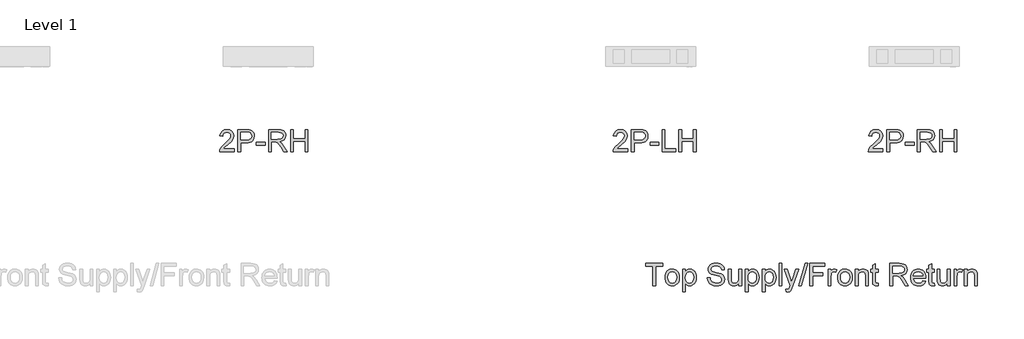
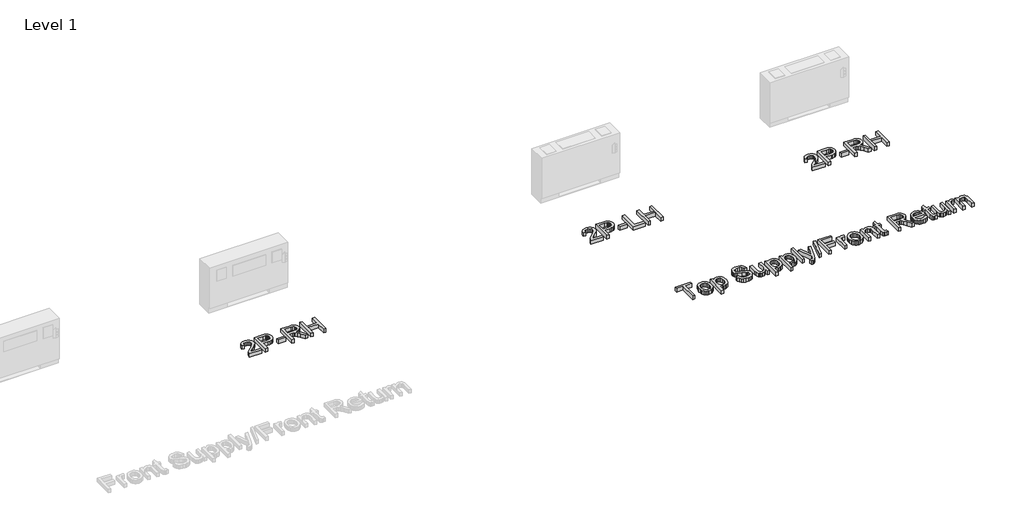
# One storey, part 2 of 2: 4 proxies.
"""IFC4 building model written with IfcOpenShell, lengths in millimetres."""

import ifcopenshell
import ifcopenshell.guid

model = None  # the IFC model being written
_history = None  # IfcOwnerHistory: only IFC2X3 demands one
_inside = {}  # id of a spatial element -> (the spatial element, [elements in it])
_under = {}  # id of a project, library or spatial element -> (it, [spatial elements below it])
_declared = {}  # id of a project -> (the project, [libraries it declares])
_typed = {}  # id of a type object -> (the type object, [elements of that type])
_made_of = {}  # id of a material, layer set ... -> (it, [elements and type objects made of it])


def new_model(schema):
    """Start an empty IFC model of exactly this schema.

    Asked for "IFC4X3", IfcOpenShell would pick the latest addendum, in which some entities
    have other attributes; the version numbers below select the first issue.
    IFC2X3 requires an IfcOwnerHistory on every rooted entity: one is made here for all.
    """
    global model, _history
    if schema == "IFC4X3":
        model = ifcopenshell.file(schema_version=(4, 3, 0, 0))
    else:
        model = ifcopenshell.file(schema=schema)
    _inside.clear()
    _under.clear()
    _declared.clear()
    _typed.clear()
    _made_of.clear()
    _history = None
    if model.schema == "IFC2X3":
        org = make("IfcOrganization", Name="unknown")
        user = make(
            "IfcPersonAndOrganization",
            ThePerson=make("IfcPerson", FamilyName="unknown"),
            TheOrganization=org,
        )
        app = make(
            "IfcApplication",
            ApplicationDeveloper=org,
            Version="unknown",
            ApplicationFullName="unknown",
            ApplicationIdentifier="unknown",
        )
        _history = make(
            "IfcOwnerHistory",
            OwningUser=user,
            OwningApplication=app,
            ChangeAction="ADDED",
            CreationDate=0,
        )
    return model


def make(cls, **values):
    """One entity of the class cls with the attributes given. An attribute that is None is left unset."""
    return model.create_entity(
        cls, **{name: value for name, value in values.items() if value is not None}
    )


def rooted(cls, **values):
    """An entity with a GlobalId (a new one), such as an element, a storey or a relation."""
    return make(cls, GlobalId=ifcopenshell.guid.new(), OwnerHistory=_history, **values)


def si_unit(unit_type, name, prefix=None):
    """IfcSIUnit, for example si_unit("LENGTHUNIT", "METRE", prefix="MILLI")."""
    return make("IfcSIUnit", UnitType=unit_type, Prefix=prefix, Name=name)


def assignment(units):
    """IfcUnitAssignment: the units of a project."""
    return None if units is None else make("IfcUnitAssignment", Units=units)


def point(xyz):
    """IfcCartesianPoint."""
    return None if xyz is None else make("IfcCartesianPoint", Coordinates=xyz)


def direction(xyz):
    """IfcDirection."""
    return None if xyz is None else make("IfcDirection", DirectionRatios=xyz)


def frame(location, z_axis=None, x_axis=None):
    """IfcAxis2Placement3D, a coordinate frame: its origin and axes. An axis left out is left unset."""
    return make(
        "IfcAxis2Placement3D",
        Location=point(location),
        Axis=direction(z_axis),
        RefDirection=direction(x_axis),
    )


def origin():
    """The frame at (0, 0, 0) with its axes left unset."""
    return frame((0.0, 0.0, 0.0))


def origin_with_axes():
    """The frame at (0, 0, 0) with the z axis (0, 0, 1) and the x axis (1, 0, 0) written out."""
    return frame((0.0, 0.0, 0.0), z_axis=(0.0, 0.0, 1.0), x_axis=(1.0, 0.0, 0.0))


def place(relative_to, where):
    """IfcLocalPlacement: puts the frame where relative to a parent placement (None: the world)."""
    return make(
        "IfcLocalPlacement", PlacementRelTo=relative_to, RelativePlacement=where
    )


def context(
    kind, dimensions, precision=None, world=None, true_north=None, identifier=None
):
    """IfcGeometricRepresentationContext, for example the 3D "Model" context."""
    return make(
        "IfcGeometricRepresentationContext",
        ContextIdentifier=identifier,
        ContextType=kind,
        CoordinateSpaceDimension=dimensions,
        Precision=precision,
        WorldCoordinateSystem=world,
        TrueNorth=true_north,
    )


def project(units=None, contexts=None):
    """IfcProject with its units and contexts."""
    return rooted(
        "IfcProject",
        Name="project",
        RepresentationContexts=contexts,
        UnitsInContext=assignment(units),
    )


def spatial(cls, under=None, at=None, **own):
    """A site, building, storey or space (cls), placed at a placement, below another one or the project."""
    s = rooted(cls, ObjectPlacement=at, **own)
    if under is not None:
        _under.setdefault(under.id(), (under, []))[1].append(s)
    return s


def polyline(points):
    """IfcPolyline through the points."""
    return make("IfcPolyline", Points=[point(p) for p in points])


def outline(outer, holes=None, kind="AREA"):
    """IfcArbitraryClosedProfileDef: a profile drawn as a closed curve; with holes, ...WithVoids."""
    if holes is None:
        return make("IfcArbitraryClosedProfileDef", ProfileType=kind, OuterCurve=outer)
    return make(
        "IfcArbitraryProfileDefWithVoids",
        ProfileType=kind,
        OuterCurve=outer,
        InnerCurves=holes,
    )


def extrude(swept, where, along, depth):
    """IfcExtrudedAreaSolid: the profile swept, set in the frame where, extruded along a direction by depth."""
    return make(
        "IfcExtrudedAreaSolid",
        SweptArea=swept,
        Position=where,
        ExtrudedDirection=direction(along),
        Depth=depth,
    )


def shape(context_of_items, identifier, shape_type, items):
    """IfcShapeRepresentation: the items that make up one representation, for example the "Body"."""
    return make(
        "IfcShapeRepresentation",
        ContextOfItems=context_of_items,
        RepresentationIdentifier=identifier,
        RepresentationType=shape_type,
        Items=items,
    )


def made_of(thing, what):
    """Note that an element or type object is made of a material, layer set ...; save() writes the relation."""
    if what is not None:
        _made_of.setdefault(what.id(), (what, []))[1].append(thing)
    return thing


def element(
    cls,
    number,
    at=None,
    inside=None,
    cuts=None,
    type_object=None,
    material=None,
    context=None,
    identifier="Body",
    shape_type=None,
    held_by="IfcProductDefinitionShape",
    body=None,
    shapes=None,
    **own,
):
    """One element of the class cls, such as IfcWall. Its Tag is "e" and its number.

    at: its placement. inside: the storey or other place that contains it. cuts: it is an
    opening in that element (IfcRelVoidsElement). A single representation is given by context,
    identifier, shape_type and body (its items); several are given by shapes. held_by: the class
    of the entity that holds the representations. save() writes the other relations.
    """
    e = rooted(cls, Tag="e%d" % number, ObjectPlacement=at, **own)
    if body is not None:
        shapes = [shape(context, identifier, shape_type, body)]
    if shapes is not None:
        e.Representation = make(held_by, Representations=shapes)
    if inside is not None:
        _inside.setdefault(inside.id(), (inside, []))[1].append(e)
    if cuts is not None:
        rooted(
            "IfcRelVoidsElement", RelatingBuildingElement=cuts, RelatedOpeningElement=e
        )
    if type_object is not None:
        _typed.setdefault(type_object.id(), (type_object, []))[1].append(e)
    return made_of(e, material)


def aggregate(whole, parts):
    """IfcRelAggregates: a whole, such as a stair, and the parts it consists of."""
    return rooted("IfcRelAggregates", RelatingObject=whole, RelatedObjects=parts)


def save(model, path):
    """Write the relations noted so far, then the file.

    IfcRelAggregates (storeys below a building ...), IfcRelContainedInSpatialStructure (elements
    in a storey), IfcRelDefinesByType, IfcRelAssociatesMaterial and IfcRelDeclares: one each for
    every whole, place, type object, material and project.
    """
    for whole, parts in _under.values():
        aggregate(whole, parts)
    for where, things in _inside.values():
        rooted(
            "IfcRelContainedInSpatialStructure",
            RelatedElements=things,
            RelatingStructure=where,
        )
    for kind, things in _typed.values():
        rooted("IfcRelDefinesByType", RelatedObjects=things, RelatingType=kind)
    for what, things in _made_of.values():
        rooted("IfcRelAssociatesMaterial", RelatedObjects=things, RelatingMaterial=what)
    for by, libraries in _declared.values():
        rooted("IfcRelDeclares", RelatingContext=by, RelatedDefinitions=libraries)
    model.write(path)


model = new_model("IFC4")

# Units and contexts
model_context = context("Model", 3, world=origin())
ifc_project = project(units=[si_unit("LENGTHUNIT", "METRE", prefix="MILLI")], contexts=[model_context])

# Site, building, storey
site = spatial("IfcSite", under=ifc_project)
building = spatial("IfcBuilding", under=site)
storey = spatial("IfcBuildingStorey", under=building, Name="Level 1", Elevation=0.0)

# Proxies
placement = place(None, origin())
element("IfcBuildingElementProxy", 1, Name="24\" Arial", ObjectType="24\" Arial", at=placement, inside=storey, context=model_context, shape_type="SweptSolid", body=[
    extrude(outline(polyline([(-16749.5749359, -2284.938898), (-16749.5749359, -2316.8337764), (-16917.0230479, -2316.8337764), (-16913.5968402, -2294.8437528), (-16905.7321363, -2277.6582067), (-16894.2231934, -2260.9865918), (-16854.2923006, -2224.0146965), (-16819.8744874, -2193.4435801), (-16799.2237995, -2170.8773306), (-16788.8984555, -2152.5626934), (-16785.4566742, -2134.7464136), (-16788.7037846, -2118.7756138), (-16798.4451159, -2105.4990592), (-16813.4192007, -2096.5519851), (-16832.3645716, -2093.5696271), (-16852.2599365, -2096.4819036), (-16867.7168051, -2105.2187331), (-16877.6917415, -2119.0948741), (-16881.1413096, -2137.425085), (-16913.0361881, -2133.4382252), (-16905.3038604, -2102.5867827), (-16888.5855244, -2080.0516806), (-16863.7533058, -2066.2689816), (-16831.6793301, -2061.6747487), (-16799.3717494, -2066.7829128), (-16774.5862517, -2082.1074052), (-16758.8179097, -2105.0007017), (-16753.5617957, -2132.8152784), (-16759.230612, -2163.0593477), (-16778.0747541, -2194.3312793), (-16823.7679052, -2238.0310005), (-16860.4594744, -2268.7111326), (-16874.8495465, -2284.938898), (-16749.5749359, -2284.938898)])), origin_with_axes(), (0.0, 0.0, 1.0), 50.8),
    extrude(outline(polyline([(-16705.719478, -2316.8337764), (-16705.719478, -2061.6747487), (-16611.1561469, -2061.6747487), (-16573.0318, -2064.1042414), (-16556.033138, -2068.6439665), (-16542.0401944, -2076.0336734), (-16530.7726434, -2086.6081961), (-16521.9501587, -2100.7023685), (-16516.2501951, -2117.3272624), (-16514.3502072, -2135.4939498), (-16519.4817318, -2165.5667088), (-16534.8763057, -2190.6247456), (-16547.2048131, -2200.4906663), (-16563.6642368, -2207.5377525), (-16584.2545768, -2211.7660042), (-16608.975833, -2213.1754214), (-16673.8245995, -2213.1754214), (-16673.8245995, -2316.8337764), (-16705.719478, -2316.8337764)]), holes=[polyline([(-16673.8245995, -2181.2805429), (-16607.1069924, -2181.2805429), (-16578.8252057, -2178.3526928), (-16560.1368003, -2169.5691422), (-16549.7180143, -2155.4749699), (-16546.2450857, -2136.6152541), (-16548.2930234, -2122.2874767), (-16554.4368367, -2110.2023079), (-16563.9134155, -2101.107284), (-16575.9596502, -2095.7499411), (-16607.8545286, -2093.5696271), (-16673.8245995, -2093.5696271), (-16673.8245995, -2181.2805429)])]), origin_with_axes(), (0.0, 0.0, 1.0), 50.8),
    extrude(outline(polyline([(-16490.4290483, -2241.0834401), (-16490.4290483, -2209.1885616), (-16390.7575531, -2209.1885616), (-16390.7575531, -2241.0834401), (-16490.4290483, -2241.0834401)])), origin_with_axes(), (0.0, 0.0, 1.0), 50.8),
    extrude(outline(polyline([(-16350.888955, -2316.8337764), (-16350.888955, -2061.6747487), (-16240.9388368, -2061.6747487), (-16211.3877959, -2063.3956393), (-16189.8883429, -2068.5583113), (-16174.1745087, -2078.089398), (-16161.9803242, -2092.9155329), (-16154.1545545, -2111.3002517), (-16151.5459646, -2131.50709), (-16155.8676583, -2156.6429952), (-16168.8327395, -2177.4805672), (-16190.83055, -2192.7583385), (-16222.2504315, -2201.214842), (-16204.1226783, -2214.8573779), (-16178.2703842, -2247.6866766), (-16135.7231147, -2316.8337764), (-16172.788452, -2316.8337764), (-16205.9915188, -2263.9455893), (-16229.9749724, -2228.9359766), (-16246.8256845, -2212.3967378), (-16261.9944402, -2206.3230061), (-16280.4959615, -2205.2017018), (-16318.9940765, -2205.2017018), (-16318.9940765, -2316.8337764), (-16350.888955, -2316.8337764)]), holes=[polyline([(-16318.9940765, -2173.3068233), (-16247.6043681, -2173.3068233), (-16211.193125, -2168.7904587), (-16199.2169719, -2162.9191847), (-16190.5112897, -2154.3380919), (-16185.2084547, -2143.9582401), (-16183.440843, -2132.690689), (-16186.8125428, -2117.1325915), (-16196.9276422, -2104.5957863), (-16214.3312197, -2096.3261669), (-16239.5683538, -2093.5696271), (-16318.9940765, -2093.5696271), (-16318.9940765, -2173.3068233)])]), origin_with_axes(), (0.0, 0.0, 1.0), 50.8),
    extrude(outline(polyline([(-16095.7299272, -2316.8337764), (-16095.7299272, -2061.6747487), (-16063.8350488, -2061.6747487), (-16063.8350488, -2165.3331037), (-15928.2818152, -2165.3331037), (-15928.2818152, -2061.6747487), (-15896.3869368, -2061.6747487), (-15896.3869368, -2316.8337764), (-15928.2818152, -2316.8337764), (-15928.2818152, -2197.2279822), (-16063.8350488, -2197.2279822), (-16063.8350488, -2316.8337764), (-16095.7299272, -2316.8337764)])), origin_with_axes(), (0.0, 0.0, 1.0), 50.8),
])
element("IfcBuildingElementProxy", 2, Name="24\" Arial", ObjectType="24\" Arial", at=placement, inside=storey, context=model_context, shape_type="SweptSolid", body=[
    extrude(outline(polyline([(-12199.6068392, -2284.938898), (-12199.6068392, -2316.8337764), (-12367.0549512, -2316.8337764), (-12363.6287436, -2294.8437528), (-12355.7640396, -2277.6582067), (-12344.2550967, -2260.9865918), (-12304.3242039, -2224.0146965), (-12269.9063907, -2193.4435801), (-12249.2557028, -2170.8773306), (-12238.9303588, -2152.5626934), (-12235.4885775, -2134.7464136), (-12238.7356879, -2118.7756138), (-12248.4770192, -2105.4990592), (-12263.451104, -2096.5519851), (-12282.3964749, -2093.5696271), (-12302.2918398, -2096.4819036), (-12317.7487084, -2105.2187331), (-12327.7236448, -2119.0948741), (-12331.1732129, -2137.425085), (-12363.0680914, -2133.4382252), (-12355.3357637, -2102.5867827), (-12338.6174277, -2080.0516806), (-12313.7852091, -2066.2689816), (-12281.7112334, -2061.6747487), (-12249.4036527, -2066.7829128), (-12224.6181551, -2082.1074052), (-12208.849813, -2105.0007017), (-12203.593699, -2132.8152784), (-12209.2625153, -2163.0593477), (-12228.1066574, -2194.3312793), (-12273.7998085, -2238.0310005), (-12310.4913777, -2268.7111326), (-12324.8814498, -2284.938898), (-12199.6068392, -2284.938898)])), origin_with_axes(), (0.0, 0.0, 1.0), 50.8),
    extrude(outline(polyline([(-12155.7513813, -2316.8337764), (-12155.7513813, -2061.6747487), (-12061.1880502, -2061.6747487), (-12023.0637033, -2064.1042414), (-12006.0650413, -2068.6439665), (-11992.0720978, -2076.0336734), (-11980.8045467, -2086.6081961), (-11971.982062, -2100.7023685), (-11966.2820984, -2117.3272624), (-11964.3821105, -2135.4939498), (-11969.5136351, -2165.5667088), (-11984.908209, -2190.6247456), (-11997.2367164, -2200.4906663), (-12013.6961401, -2207.5377525), (-12034.2864801, -2211.7660042), (-12059.0077363, -2213.1754214), (-12123.8565029, -2213.1754214), (-12123.8565029, -2316.8337764), (-12155.7513813, -2316.8337764)]), holes=[polyline([(-12123.8565029, -2181.2805429), (-12057.1388957, -2181.2805429), (-12028.857109, -2178.3526928), (-12010.1687036, -2169.5691422), (-11999.7499176, -2155.4749699), (-11996.276989, -2136.6152541), (-11998.3249267, -2122.2874767), (-12004.46874, -2110.2023079), (-12013.9453189, -2101.107284), (-12025.9915535, -2095.7499411), (-12057.886432, -2093.5696271), (-12123.8565029, -2093.5696271), (-12123.8565029, -2181.2805429)])]), origin_with_axes(), (0.0, 0.0, 1.0), 50.8),
    extrude(outline(polyline([(-11940.4609516, -2241.0834401), (-11940.4609516, -2209.1885616), (-11840.7894564, -2209.1885616), (-11840.7894564, -2241.0834401), (-11940.4609516, -2241.0834401)])), origin_with_axes(), (0.0, 0.0, 1.0), 50.8),
    extrude(outline(polyline([(-11800.9208583, -2316.8337764), (-11800.9208583, -2061.6747487), (-11769.0259798, -2061.6747487), (-11769.0259798, -2284.938898), (-11641.446466, -2284.938898), (-11641.446466, -2316.8337764), (-11800.9208583, -2316.8337764)])), origin_with_axes(), (0.0, 0.0, 1.0), 50.8),
    extrude(outline(polyline([(-11605.5647277, -2316.8337764), (-11605.5647277, -2061.6747487), (-11573.6698492, -2061.6747487), (-11573.6698492, -2165.3331037), (-11438.1166157, -2165.3331037), (-11438.1166157, -2061.6747487), (-11406.2217372, -2061.6747487), (-11406.2217372, -2316.8337764), (-11438.1166157, -2316.8337764), (-11438.1166157, -2197.2279822), (-11573.6698492, -2197.2279822), (-11573.6698492, -2316.8337764), (-11605.5647277, -2316.8337764)])), origin_with_axes(), (0.0, 0.0, 1.0), 50.8),
])
element("IfcBuildingElementProxy", 3, Name="24\" Arial", ObjectType="24\" Arial", at=placement, inside=storey, context=model_context, shape_type="SweptSolid", body=[
    extrude(outline(polyline([(-9247.4695, -2284.938898), (-9247.4695, -2316.8337764), (-9414.917612, -2316.8337764), (-9411.4914043, -2294.8437528), (-9403.6267004, -2277.6582067), (-9392.1177575, -2260.9865918), (-9352.1868647, -2224.0146965), (-9317.7690515, -2193.4435801), (-9297.1183636, -2170.8773306), (-9286.7930196, -2152.5626934), (-9283.3512383, -2134.7464136), (-9286.5983487, -2118.7756138), (-9296.33968, -2105.4990592), (-9311.3137648, -2096.5519851), (-9330.2591357, -2093.5696271), (-9350.1545006, -2096.4819036), (-9365.6113692, -2105.2187331), (-9375.5863056, -2119.0948741), (-9379.0358737, -2137.425085), (-9410.9307522, -2133.4382252), (-9403.1984245, -2102.5867827), (-9386.4800885, -2080.0516806), (-9361.6478699, -2066.2689816), (-9329.5738942, -2061.6747487), (-9297.2663134, -2066.7829128), (-9272.4808158, -2082.1074052), (-9256.7124738, -2105.0007017), (-9251.4563598, -2132.8152784), (-9257.1251761, -2163.0593477), (-9275.9693182, -2194.3312793), (-9321.6624693, -2238.0310005), (-9358.3540385, -2268.7111326), (-9372.7441106, -2284.938898), (-9247.4695, -2284.938898)])), origin_with_axes(), (0.0, 0.0, 1.0), 50.8),
    extrude(outline(polyline([(-9203.6140421, -2316.8337764), (-9203.6140421, -2061.6747487), (-9109.050711, -2061.6747487), (-9070.9263641, -2064.1042414), (-9053.9277021, -2068.6439665), (-9039.9347585, -2076.0336734), (-9028.6672075, -2086.6081961), (-9019.8447228, -2100.7023685), (-9014.1447592, -2117.3272624), (-9012.2447713, -2135.4939498), (-9017.3762959, -2165.5667088), (-9032.7708698, -2190.6247456), (-9045.0993772, -2200.4906663), (-9061.5588009, -2207.5377525), (-9082.1491408, -2211.7660042), (-9106.8703971, -2213.1754214), (-9171.7191636, -2213.1754214), (-9171.7191636, -2316.8337764), (-9203.6140421, -2316.8337764)]), holes=[polyline([(-9171.7191636, -2181.2805429), (-9105.0015565, -2181.2805429), (-9076.7197698, -2178.3526928), (-9058.0313644, -2169.5691422), (-9047.6125784, -2155.4749699), (-9044.1396497, -2136.6152541), (-9046.1875875, -2122.2874767), (-9052.3314008, -2110.2023079), (-9061.8079796, -2101.107284), (-9073.8542143, -2095.7499411), (-9105.7490927, -2093.5696271), (-9171.7191636, -2093.5696271), (-9171.7191636, -2181.2805429)])]), origin_with_axes(), (0.0, 0.0, 1.0), 50.8),
    extrude(outline(polyline([(-8988.3236124, -2241.0834401), (-8988.3236124, -2209.1885616), (-8888.6521172, -2209.1885616), (-8888.6521172, -2241.0834401), (-8988.3236124, -2241.0834401)])), origin_with_axes(), (0.0, 0.0, 1.0), 50.8),
    extrude(outline(polyline([(-8848.7835191, -2316.8337764), (-8848.7835191, -2061.6747487), (-8738.8334009, -2061.6747487), (-8709.28236, -2063.3956393), (-8687.782907, -2068.5583113), (-8672.0690728, -2078.089398), (-8659.8748883, -2092.9155329), (-8652.0491186, -2111.3002517), (-8649.4405287, -2131.50709), (-8653.7622224, -2156.6429952), (-8666.7273036, -2177.4805672), (-8688.7251141, -2192.7583385), (-8720.1449956, -2201.214842), (-8702.0172424, -2214.8573779), (-8676.1649483, -2247.6866766), (-8633.6176788, -2316.8337764), (-8670.6830161, -2316.8337764), (-8703.8860829, -2263.9455893), (-8727.8695365, -2228.9359766), (-8744.7202486, -2212.3967378), (-8759.8890043, -2206.3230061), (-8778.3905256, -2205.2017018), (-8816.8886406, -2205.2017018), (-8816.8886406, -2316.8337764), (-8848.7835191, -2316.8337764)]), holes=[polyline([(-8816.8886406, -2173.3068233), (-8745.4989322, -2173.3068233), (-8709.0876891, -2168.7904587), (-8697.111536, -2162.9191847), (-8688.4058538, -2154.3380919), (-8683.1030188, -2143.9582401), (-8681.3354071, -2132.690689), (-8684.7071069, -2117.1325915), (-8694.8222063, -2104.5957863), (-8712.2257838, -2096.3261669), (-8737.4629179, -2093.5696271), (-8816.8886406, -2093.5696271), (-8816.8886406, -2173.3068233)])]), origin_with_axes(), (0.0, 0.0, 1.0), 50.8),
    extrude(outline(polyline([(-8593.6244913, -2316.8337764), (-8593.6244913, -2061.6747487), (-8561.7296129, -2061.6747487), (-8561.7296129, -2165.3331037), (-8426.1763793, -2165.3331037), (-8426.1763793, -2061.6747487), (-8394.2815009, -2061.6747487), (-8394.2815009, -2316.8337764), (-8426.1763793, -2316.8337764), (-8426.1763793, -2197.2279822), (-8561.7296129, -2197.2279822), (-8561.7296129, -2316.8337764), (-8593.6244913, -2316.8337764)])), origin_with_axes(), (0.0, 0.0, 1.0), 50.8),
])
element("IfcBuildingElementProxy", 4, Name="24\" Arial", ObjectType="24\" Arial", at=placement, inside=storey, context=model_context, shape_type="SweptSolid", body=[
    extrude(outline(polyline([(-11906.8480727, -3865.3936295), (-11906.8480727, -3642.1294801), (-11990.5721287, -3642.1294801), (-11990.5721287, -3610.2346017), (-11791.2291382, -3610.2346017), (-11791.2291382, -3642.1294801), (-11874.9531942, -3642.1294801), (-11874.9531942, -3865.3936295), (-11906.8480727, -3865.3936295)])), origin_with_axes(), (0.0, 0.0, 1.0), 50.8),
    extrude(outline(polyline([(-11767.3079794, -3771.7024239), (-11765.5831953, -3747.4347509), (-11760.4088431, -3726.523204), (-11751.7849227, -3708.9677832), (-11739.7114341, -3694.7684886), (-11714.1394661, -3679.2103911), (-11683.5216287, -3674.0243586), (-11665.925327, -3675.6031395), (-11650.0148753, -3680.3394823), (-11635.7902734, -3688.2333868), (-11623.2515214, -3699.2848532), (-11613.0176728, -3713.1201133), (-11605.7077809, -3729.365399), (-11601.3218458, -3748.0207103), (-11599.8598674, -3769.0860472), (-11602.4450968, -3801.3079728), (-11610.200785, -3825.8365048), (-11622.9011138, -3844.2056499), (-11640.320265, -3857.9494147), (-11661.0098871, -3866.5227206), (-11683.5216287, -3869.3804893), (-11701.3748959, -3867.8075485), (-11717.4332976, -3863.0887261), (-11731.6968336, -3855.2240222), (-11744.1655041, -3844.2134367), (-11754.290337, -3830.2438537), (-11761.5223606, -3813.5021573), (-11765.8615747, -3793.9883473), (-11767.3079794, -3771.7024239)]), holes=[polyline([(-11735.4131009, -3771.6401293), (-11731.7221408, -3800.5059287), (-11720.6492607, -3821.0709614), (-11703.9854326, -3833.3819484), (-11683.5216287, -3837.4856108), (-11663.1512669, -3833.3585879), (-11646.5185861, -3820.9775194), (-11635.4457059, -3800.1399474), (-11631.7547459, -3770.6434143), (-11635.4690664, -3742.6185931), (-11646.6120281, -3722.3338865), (-11663.2680694, -3710.0228994), (-11683.5216287, -3705.9192371), (-11703.9854326, -3710.0073258), (-11720.6492607, -3722.2715918), (-11731.7221408, -3742.7899035), (-11735.4131009, -3771.6401293)])]), origin_with_axes(), (0.0, 0.0, 1.0), 50.8),
    extrude(outline(polyline([(-11563.9781291, -3937.157106), (-11563.9781291, -3678.0112184), (-11532.0832506, -3678.0112184), (-11532.0832506, -3709.2831501), (-11521.6800383, -3693.8574288), (-11510.0309323, -3682.8390565), (-11496.4506911, -3676.2280331), (-11480.2540731, -3674.0243586), (-11458.6845386, -3677.1079455), (-11439.8248229, -3686.3587062), (-11424.4691831, -3701.2159884), (-11413.4118766, -3721.1191401), (-11406.7307717, -3744.6198098), (-11404.5037368, -3770.2696462), (-11407.0188846, -3797.5469312), (-11414.5643283, -3821.943087), (-11426.8986758, -3842.2200068), (-11443.7805353, -3857.1395838), (-11463.4422951, -3866.3202629), (-11484.1163436, -3869.3804893), (-11498.7789549, -3867.3325515), (-11511.8686255, -3861.1887382), (-11532.0832506, -3840.4757556), (-11532.0832506, -3937.157106), (-11563.9781291, -3937.157106)]), holes=[polyline([(-11532.0832506, -3773.1974964), (-11528.6336825, -3801.7907566), (-11518.284978, -3821.7873503), (-11503.0149935, -3833.5610457), (-11484.8015851, -3837.4856108), (-11466.292277, -3833.4208826), (-11450.6329506, -3821.2266981), (-11439.9571991, -3800.4981419), (-11436.3986152, -3770.8302984), (-11439.8715439, -3742.3927749), (-11450.2903299, -3722.1158551), (-11465.5369539, -3709.9683916), (-11483.4933967, -3705.9192371), (-11501.5199211, -3710.2253572), (-11517.3505578, -3723.1437174), (-11528.4000774, -3744.2694022), (-11532.0832506, -3773.1974964)])]), origin_with_axes(), (0.0, 0.0, 1.0), 50.8),
    extrude(outline(polyline([(-11276.9242229, -3777.6827137), (-11245.0293444, -3777.6827137), (-11241.3695317, -3795.3821909), (-11234.7507214, -3809.6087395), (-11224.4253775, -3820.899651), (-11209.6459636, -3829.7922173), (-11191.5805051, -3835.5622624), (-11171.3970273, -3837.4856108), (-11153.6274685, -3836.0294725), (-11138.0693711, -3831.6610578), (-11125.4624843, -3824.7463478), (-11116.5465576, -3815.6513239), (-11111.2437226, -3805.2091774), (-11109.4761109, -3794.2530997), (-11114.7711591, -3774.349948), (-11122.8383207, -3766.4774573), (-11136.4497093, -3759.8664339), (-11182.8903966, -3747.6878231), (-11232.8818809, -3731.9584152), (-11248.7592386, -3721.2281558), (-11260.011216, -3708.2241404), (-11266.7156814, -3693.2266951), (-11268.9505032, -3676.516146), (-11266.1861766, -3657.8355275), (-11257.8931967, -3640.4163763), (-11244.289595, -3625.6525361), (-11225.5934028, -3614.9378504), (-11203.1517427, -3608.420269), (-11178.3117373, -3606.2477419), (-11151.4004336, -3608.5214978), (-11127.8530428, -3615.3427658), (-11108.5105433, -3626.5713827), (-11094.2139132, -3642.0671855), (-11085.1656102, -3660.8646065), (-11081.5680922, -3681.9980782), (-11113.4629707, -3681.9980782), (-11119.318671, -3662.9670521), (-11131.5284292, -3649.2310742), (-11150.6061763, -3640.9147338), (-11177.0658436, -3638.1426203), (-11204.1484577, -3640.8835865), (-11222.7278473, -3649.1064848), (-11233.4736804, -3661.2072273), (-11237.0556248, -3675.5817257), (-11234.5171164, -3687.8382049), (-11226.9015912, -3697.6963387), (-11208.8984274, -3706.5110366), (-11174.8232349, -3715.5126185), (-11118.3842508, -3731.5223524), (-11100.2019897, -3743.0935901), (-11087.5172346, -3757.3746465), (-11080.065233, -3774.209785), (-11077.5812324, -3793.4432688), (-11080.4390011, -3813.1050286), (-11089.012307, -3831.5987631), (-11102.9507427, -3847.515055), (-11121.9039004, -3859.4444871), (-11144.6959681, -3866.8964887), (-11170.1511336, -3869.3804893), (-11201.3997047, -3866.7018178), (-11227.1196226, -3858.6658035), (-11247.606787, -3845.241299), (-11263.1570976, -3826.3971569), (-11273.1398208, -3803.4415657), (-11276.9242229, -3777.6827137)])), origin_with_axes(), (0.0, 0.0, 1.0), 50.8),
    extrude(outline(polyline([(-10914.1199802, -3865.3936295), (-10914.1199802, -3833.1872776), (-10925.6600705, -3849.0218077), (-10939.1001487, -3860.3321863), (-10954.4402148, -3867.1184135), (-10971.6802687, -3869.3804893), (-10987.2150057, -3867.7919748), (-11001.6751593, -3863.0264314), (-11013.8070491, -3855.8625427), (-11022.3569946, -3847.0789922), (-11031.856934, -3823.5938961), (-11033.7257745, -3793.9416263), (-11033.7257745, -3678.0112184), (-11001.830896, -3678.0112184), (-11001.830896, -3778.9286073), (-10999.8997608, -3811.4464327), (-10995.25102, -3822.2934946), (-10987.2850872, -3830.5397535), (-10976.5314673, -3835.7491465), (-10963.5196651, -3837.4856108), (-10949.7603266, -3835.7102123), (-10936.8886874, -3830.3840168), (-10926.2752306, -3821.9975949), (-10919.2904391, -3811.0415172), (-10915.4125949, -3796.0362851), (-10914.1199802, -3775.5023997), (-10914.1199802, -3678.0112184), (-10882.2251018, -3678.0112184), (-10882.2251018, -3865.3936295), (-10914.1199802, -3865.3936295)])), origin_with_axes(), (0.0, 0.0, 1.0), 50.8),
    extrude(outline(polyline([(-10838.3696439, -3937.157106), (-10838.3696439, -3678.0112184), (-10806.4747654, -3678.0112184), (-10806.4747654, -3709.2831501), (-10796.0715531, -3693.8574288), (-10784.4224471, -3682.8390565), (-10770.8422058, -3676.2280331), (-10754.6455879, -3674.0243586), (-10733.0760534, -3677.1079455), (-10714.2163376, -3686.3587062), (-10698.8606979, -3701.2159884), (-10687.8033914, -3721.1191401), (-10681.1222865, -3744.6198098), (-10678.8952515, -3770.2696462), (-10681.4103994, -3797.5469312), (-10688.9558431, -3821.943087), (-10701.2901906, -3842.2200068), (-10718.1720501, -3857.1395838), (-10737.8338099, -3866.3202629), (-10758.5078583, -3869.3804893), (-10773.1704697, -3867.3325515), (-10786.2601403, -3861.1887382), (-10806.4747654, -3840.4757556), (-10806.4747654, -3937.157106), (-10838.3696439, -3937.157106)]), holes=[polyline([(-10806.4747654, -3773.1974964), (-10803.0251972, -3801.7907566), (-10792.6764928, -3821.7873503), (-10777.4065082, -3833.5610457), (-10759.1930998, -3837.4856108), (-10740.6837917, -3833.4208826), (-10725.0244654, -3821.2266981), (-10714.3487138, -3800.4981419), (-10710.79013, -3770.8302984), (-10714.2630586, -3742.3927749), (-10724.6818446, -3722.1158551), (-10739.9284687, -3709.9683916), (-10757.8849115, -3705.9192371), (-10775.9114358, -3710.2253572), (-10791.7420725, -3723.1437174), (-10802.7915922, -3744.2694022), (-10806.4747654, -3773.1974964)])]), origin_with_axes(), (0.0, 0.0, 1.0), 50.8),
    extrude(outline(polyline([(-10643.0135132, -3937.157106), (-10643.0135132, -3678.0112184), (-10611.1186347, -3678.0112184), (-10611.1186347, -3709.2831501), (-10600.7154224, -3693.8574288), (-10589.0663164, -3682.8390565), (-10575.4860752, -3676.2280331), (-10559.2894572, -3674.0243586), (-10537.7199227, -3677.1079455), (-10518.860207, -3686.3587062), (-10503.5045672, -3701.2159884), (-10492.4472607, -3721.1191401), (-10485.7661558, -3744.6198098), (-10483.5391209, -3770.2696462), (-10486.0542687, -3797.5469312), (-10493.5997124, -3821.943087), (-10505.9340599, -3842.2200068), (-10522.8159194, -3857.1395838), (-10542.4776792, -3866.3202629), (-10563.1517277, -3869.3804893), (-10577.814339, -3867.3325515), (-10590.9040096, -3861.1887382), (-10611.1186347, -3840.4757556), (-10611.1186347, -3937.157106), (-10643.0135132, -3937.157106)]), holes=[polyline([(-10611.1186347, -3773.1974964), (-10607.6690666, -3801.7907566), (-10597.3203621, -3821.7873503), (-10582.0503776, -3833.5610457), (-10563.8369692, -3837.4856108), (-10545.3276611, -3833.4208826), (-10529.6683347, -3821.2266981), (-10518.9925832, -3800.4981419), (-10515.4339993, -3770.8302984), (-10518.906928, -3742.3927749), (-10529.325714, -3722.1158551), (-10544.572338, -3709.9683916), (-10562.5287808, -3705.9192371), (-10580.5553052, -3710.2253572), (-10596.3859419, -3723.1437174), (-10607.4354615, -3744.2694022), (-10611.1186347, -3773.1974964)])]), origin_with_axes(), (0.0, 0.0, 1.0), 50.8),
    extrude(outline(polyline([(-10447.6573826, -3865.3936295), (-10447.6573826, -3610.2346017), (-10415.7625041, -3610.2346017), (-10415.7625041, -3865.3936295), (-10447.6573826, -3865.3936295)])), origin_with_axes(), (0.0, 0.0, 1.0), 50.8),
    extrude(outline(polyline([(-10367.9201864, -3937.157106), (-10371.9070462, -3906.4458265), (-10355.7104282, -3909.2490874), (-10340.5728199, -3905.7294377), (-10331.2909119, -3895.9180249), (-10322.5696561, -3872.4329288), (-10320.0778687, -3864.7083879), (-10387.8544854, -3678.0112184), (-10354.2153558, -3678.0112184), (-10318.2713228, -3782.0433416), (-10305.7500912, -3823.6561908), (-10293.2288597, -3786.902327), (-10256.2881117, -3678.0112184), (-10222.8981608, -3678.0112184), (-10288.1206955, -3869.8788467), (-10305.0648497, -3911.491696), (-10313.7393845, -3924.7760375), (-10323.566371, -3933.9800771), (-10334.981872, -3939.3529936), (-10348.4219501, -3941.1439658), (-10367.9201864, -3937.157106)])), origin_with_axes(), (0.0, 0.0, 1.0), 50.8),
    extrude(outline(polyline([(-10220.4063735, -3865.3936295), (-10148.6428969, -3610.2346017), (-10119.8627526, -3610.2346017), (-10191.6262292, -3865.3936295), (-10220.4063735, -3865.3936295)])), origin_with_axes(), (0.0, 0.0, 1.0), 50.8),
    extrude(outline(polyline([(-10092.8268596, -3865.3936295), (-10092.8268596, -3610.2346017), (-9921.3918878, -3610.2346017), (-9921.3918878, -3642.1294801), (-10060.9319811, -3642.1294801), (-10060.9319811, -3717.8798165), (-9941.3261868, -3717.8798165), (-9941.3261868, -3749.774695), (-10060.9319811, -3749.774695), (-10060.9319811, -3865.3936295), (-10092.8268596, -3865.3936295)])), origin_with_axes(), (0.0, 0.0, 1.0), 50.8),
    extrude(outline(polyline([(-9881.5232897, -3865.3936295), (-9881.5232897, -3678.0112184), (-9853.615271, -3678.0112184), (-9853.615271, -3705.732353), (-9843.3055007, -3689.6603244), (-9833.8055613, -3680.1915324), (-9824.2744746, -3675.5661521), (-9813.8712623, -3674.0243586), (-9797.9861178, -3676.4849987), (-9781.8517945, -3683.8669188), (-9792.5041855, -3712.460179), (-9814.9302719, -3705.9192371), (-9824.4535718, -3707.4921779), (-9832.9645831, -3712.2110002), (-9839.8403589, -3719.7175097), (-9844.4579524, -3729.6535119), (-9849.6284112, -3766.9057332), (-9849.6284112, -3865.3936295), (-9881.5232897, -3865.3936295)])), origin_with_axes(), (0.0, 0.0, 1.0), 50.8),
    extrude(outline(polyline([(-9769.891215, -3771.7024239), (-9768.166431, -3747.4347509), (-9762.9920787, -3726.523204), (-9754.3681583, -3708.9677832), (-9742.2946698, -3694.7684886), (-9716.7227018, -3679.2103911), (-9686.1048644, -3674.0243586), (-9668.5085627, -3675.6031395), (-9652.5981109, -3680.3394823), (-9638.3735091, -3688.2333868), (-9625.8347571, -3699.2848532), (-9615.6009084, -3713.1201133), (-9608.2910166, -3729.365399), (-9603.9050814, -3748.0207103), (-9602.4431031, -3769.0860472), (-9605.0283325, -3801.3079728), (-9612.7840207, -3825.8365048), (-9625.4843495, -3844.2056499), (-9642.9035006, -3857.9494147), (-9663.5931227, -3866.5227206), (-9686.1048644, -3869.3804893), (-9703.9581316, -3867.8075485), (-9720.0165332, -3863.0887261), (-9734.2800693, -3855.2240222), (-9746.7487397, -3844.2134367), (-9756.8735727, -3830.2438537), (-9764.1055962, -3813.5021573), (-9768.4448103, -3793.9883473), (-9769.891215, -3771.7024239)]), holes=[polyline([(-9737.9963366, -3771.6401293), (-9734.3053765, -3800.5059287), (-9723.2324963, -3821.0709614), (-9706.5686682, -3833.3819484), (-9686.1048644, -3837.4856108), (-9665.7345025, -3833.3585879), (-9649.1018218, -3820.9775194), (-9638.0289416, -3800.1399474), (-9634.3379815, -3770.6434143), (-9638.0523021, -3742.6185931), (-9649.1952638, -3722.3338865), (-9665.8513051, -3710.0228994), (-9686.1048644, -3705.9192371), (-9706.5686682, -3710.0073258), (-9723.2324963, -3722.2715918), (-9734.3053765, -3742.7899035), (-9737.9963366, -3771.6401293)])]), origin_with_axes(), (0.0, 0.0, 1.0), 50.8),
    extrude(outline(polyline([(-9566.5613648, -3865.3936295), (-9566.5613648, -3678.0112184), (-9534.6664863, -3678.0112184), (-9534.6664863, -3704.1749859), (-9523.5858193, -3690.9840865), (-9510.2781173, -3681.5620154), (-9494.7433804, -3675.9087728), (-9476.9816084, -3674.0243586), (-9461.2599874, -3675.5427916), (-9446.8621285, -3680.0980904), (-9434.854828, -3687.121816), (-9426.3048826, -3696.0455296), (-9416.7426485, -3719.4994783), (-9415.060692, -3750.3353472), (-9415.060692, -3865.3936295), (-9446.9555705, -3865.3936295), (-9446.9555705, -3754.6336804), (-9450.6309569, -3726.4141883), (-9455.7157605, -3718.0121927), (-9463.6193986, -3711.4946114), (-9485.5159802, -3705.9192371), (-9504.1965987, -3709.049545), (-9520.1206775, -3718.4404687), (-9531.0300341, -3736.5837955), (-9534.6664863, -3765.971313), (-9534.6664863, -3865.3936295), (-9566.5613648, -3865.3936295)])), origin_with_axes(), (0.0, 0.0, 1.0), 50.8),
    extrude(outline(polyline([(-9303.4286174, -3838.7937992), (-9299.4417576, -3866.3280497), (-9323.3006217, -3869.3804893), (-9338.6095405, -3868.0567272), (-9350.0250414, -3864.0854411), (-9363.3561039, -3850.1937264), (-9367.2183743, -3814.0005147), (-9367.2183743, -3709.9060969), (-9391.1395332, -3709.9060969), (-9391.1395332, -3678.0112184), (-9367.2183743, -3678.0112184), (-9367.2183743, -3632.473804), (-9335.3234958, -3613.723104), (-9335.3234958, -3678.0112184), (-9303.4286174, -3678.0112184), (-9303.4286174, -3709.9060969), (-9335.3234958, -3709.9060969), (-9335.3234958, -3813.0660945), (-9333.6415394, -3829.5118912), (-9328.1907545, -3835.3364442), (-9317.320332, -3837.4856108), (-9303.4286174, -3838.7937992)])), origin_with_axes(), (0.0, 0.0, 1.0), 50.8),
    extrude(outline(polyline([(-9167.8753839, -3865.3936295), (-9167.8753839, -3610.2346017), (-9057.9252657, -3610.2346017), (-9028.3742247, -3611.9554923), (-9006.8747717, -3617.1181643), (-8991.1609376, -3626.649251), (-8978.9667531, -3641.475386), (-8971.1409833, -3659.8601047), (-8968.5323934, -3680.066943), (-8972.8540872, -3705.2028482), (-8985.8191684, -3726.0404202), (-9007.8169788, -3741.3181916), (-9039.2368603, -3749.774695), (-9021.1091071, -3763.4172309), (-8995.2568131, -3796.2465296), (-8952.7095435, -3865.3936295), (-8989.7748808, -3865.3936295), (-9022.9779477, -3812.5054423), (-9046.9614012, -3777.4958296), (-9063.8121134, -3760.9565909), (-9078.9808691, -3754.8828591), (-9097.4823904, -3753.7615548), (-9135.9805054, -3753.7615548), (-9135.9805054, -3865.3936295), (-9167.8753839, -3865.3936295)]), holes=[polyline([(-9135.9805054, -3721.8666763), (-9064.5907969, -3721.8666763), (-9028.1795538, -3717.3503117), (-9016.2034007, -3711.4790377), (-9007.4977186, -3702.8979449), (-9002.1948836, -3692.5180931), (-9000.4272719, -3681.250542), (-9003.7989717, -3665.6924446), (-9013.9140711, -3653.1556393), (-9031.3176486, -3644.8860199), (-9056.5547826, -3642.1294801), (-9135.9805054, -3642.1294801), (-9135.9805054, -3721.8666763)])]), origin_with_axes(), (0.0, 0.0, 1.0), 50.8),
    extrude(outline(polyline([(-8785.5106103, -3809.5775921), (-8754.2386787, -3813.5644519), (-8765.5062297, -3837.1274164), (-8783.4860331, -3854.7412384), (-8807.7731732, -3865.7206765), (-8837.9627347, -3869.3804893), (-8857.7529773, -3867.8017084), (-8875.3862664, -3863.0653656), (-8890.8626021, -3855.1714611), (-8904.1819843, -3844.1199947), (-8914.8927766, -3830.2185465), (-8922.5433426, -3813.7746965), (-8927.1336821, -3794.7884447), (-8928.6637953, -3773.2597911), (-8927.1181085, -3751.0011216), (-8922.4810479, -3731.3821894), (-8914.7526136, -3714.4029944), (-8903.9328056, -3700.0635367), (-8890.6484641, -3688.6713963), (-8875.5264294, -3680.5341532), (-8858.5667016, -3675.6518073), (-8839.7692805, -3674.0243586), (-8821.5772859, -3675.6479138), (-8805.1256491, -3680.5185795), (-8790.41437, -3688.6363556), (-8777.4434487, -3700.0012421), (-8766.855299, -3714.3095524), (-8759.292335, -3731.2576), (-8754.7545565, -3750.8453849), (-8753.2419637, -3773.072907), (-8753.4288478, -3781.6695735), (-8896.7689169, -3781.6695735), (-8891.2480504, -3805.5440113), (-8878.4231323, -3823.0955387), (-8859.9138241, -3833.8880928), (-8837.3397878, -3837.4856108), (-8820.3644863, -3835.819228), (-8806.0678562, -3830.8200795), (-8794.4498975, -3822.1766921), (-8785.5106103, -3809.5775921)]), holes=[polyline([(-8896.7689169, -3749.774695), (-8785.1368422, -3749.774695), (-8789.4507491, -3732.9239828), (-8797.9072525, -3720.8699614), (-8816.5022159, -3709.6569182), (-8839.8938699, -3705.9192371), (-8861.3933229, -3708.9015951), (-8879.1706685, -3717.8486692), (-8891.5283765, -3731.7948917), (-8896.7689169, -3749.774695)])]), origin_with_axes(), (0.0, 0.0, 1.0), 50.8),
    extrude(outline(polyline([(-8653.5704685, -3838.7937992), (-8649.5836087, -3866.3280497), (-8673.4424729, -3869.3804893), (-8688.7513916, -3868.0567272), (-8700.1668925, -3864.0854411), (-8713.497955, -3850.1937264), (-8717.3602254, -3814.0005147), (-8717.3602254, -3709.9060969), (-8741.2813843, -3709.9060969), (-8741.2813843, -3678.0112184), (-8717.3602254, -3678.0112184), (-8717.3602254, -3632.473804), (-8685.465347, -3613.723104), (-8685.465347, -3678.0112184), (-8653.5704685, -3678.0112184), (-8653.5704685, -3709.9060969), (-8685.465347, -3709.9060969), (-8685.465347, -3813.0660945), (-8683.7833905, -3829.5118912), (-8678.3326056, -3835.3364442), (-8667.4621831, -3837.4856108), (-8653.5704685, -3838.7937992)])), origin_with_axes(), (0.0, 0.0, 1.0), 50.8),
    extrude(outline(polyline([(-8502.0697958, -3865.3936295), (-8502.0697958, -3833.1872776), (-8513.6098861, -3849.0218077), (-8527.0499642, -3860.3321863), (-8542.3900303, -3867.1184135), (-8559.6300842, -3869.3804893), (-8575.1648212, -3867.7919748), (-8589.6249748, -3863.0264314), (-8601.7568647, -3855.8625427), (-8610.3068101, -3847.0789922), (-8619.8067495, -3823.5938961), (-8621.67559, -3793.9416263), (-8621.67559, -3678.0112184), (-8589.7807116, -3678.0112184), (-8589.7807116, -3778.9286073), (-8587.8495763, -3811.4464327), (-8583.2008355, -3822.2934946), (-8575.2349027, -3830.5397535), (-8564.4812828, -3835.7491465), (-8551.4694806, -3837.4856108), (-8537.7101421, -3835.7102123), (-8524.8385029, -3830.3840168), (-8514.2250461, -3821.9975949), (-8507.2402546, -3811.0415172), (-8503.3624105, -3796.0362851), (-8502.0697958, -3775.5023997), (-8502.0697958, -3678.0112184), (-8470.1749173, -3678.0112184), (-8470.1749173, -3865.3936295), (-8502.0697958, -3865.3936295)])), origin_with_axes(), (0.0, 0.0, 1.0), 50.8),
    extrude(outline(polyline([(-8426.3194594, -3865.3936295), (-8426.3194594, -3678.0112184), (-8398.4114407, -3678.0112184), (-8398.4114407, -3705.732353), (-8388.1016704, -3689.6603244), (-8378.601731, -3680.1915324), (-8369.0706443, -3675.5661521), (-8358.667432, -3674.0243586), (-8342.7822874, -3676.4849987), (-8326.6479642, -3683.8669188), (-8337.3003552, -3712.460179), (-8359.7264416, -3705.9192371), (-8369.2497415, -3707.4921779), (-8377.7607528, -3712.2110002), (-8384.6365286, -3719.7175097), (-8389.2541221, -3729.6535119), (-8394.4245809, -3766.9057332), (-8394.4245809, -3865.3936295), (-8426.3194594, -3865.3936295)])), origin_with_axes(), (0.0, 0.0, 1.0), 50.8),
    extrude(outline(polyline([(-8306.7136651, -3865.3936295), (-8306.7136651, -3678.0112184), (-8274.8187866, -3678.0112184), (-8274.8187866, -3704.1749859), (-8263.7381196, -3690.9840865), (-8250.4304176, -3681.5620154), (-8234.8956807, -3675.9087728), (-8217.1339088, -3674.0243586), (-8201.4122878, -3675.5427916), (-8187.0144288, -3680.0980904), (-8175.0071284, -3687.121816), (-8166.4571829, -3696.0455296), (-8156.8949488, -3719.4994783), (-8155.2129924, -3750.3353472), (-8155.2129924, -3865.3936295), (-8187.1078708, -3865.3936295), (-8187.1078708, -3754.6336804), (-8190.7832572, -3726.4141883), (-8195.8680608, -3718.0121927), (-8203.7716989, -3711.4946114), (-8225.6682806, -3705.9192371), (-8244.3488991, -3709.049545), (-8260.2729778, -3718.4404687), (-8271.1823344, -3736.5837955), (-8274.8187866, -3765.971313), (-8274.8187866, -3865.3936295), (-8306.7136651, -3865.3936295)])), origin_with_axes(), (0.0, 0.0, 1.0), 50.8),
])

save(model, "model.ifc")
